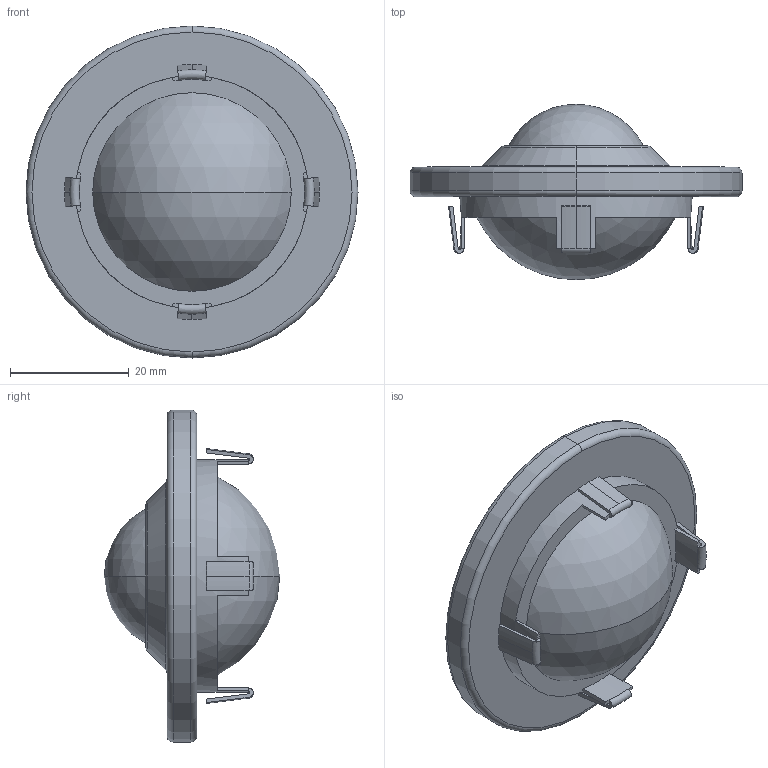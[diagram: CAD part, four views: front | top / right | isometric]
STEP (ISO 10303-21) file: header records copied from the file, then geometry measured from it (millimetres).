
FILE_DESCRIPTION (( 'STEP AP203' ), '1' );
FILE_NAME ('PV30UX.STEP', '2016-01-22T06:28:33', ( '' ), ( '' ), 'SwSTEP 2.0', 'SolidWorks 2013', '' );
FILE_SCHEMA (( 'CONFIG_CONTROL_DESIGN' ));
Length unit declared in the file: millimetre
Products named in the file (1): PV30UX
Bounding box: 56 x 29.6 x 56 mm (x, y, z)
Volume: 25777.7 mm3; surface area: 7386.8 mm2
Topology: 1 solids, 1 shells, 86 faces, 226 edges, 146 vertices
Faces by surface type: plane 36, cone 22, torus 16, cylinder 8, sphere 4
Entity records: 2779 total; most frequent: DIRECTION 524, CARTESIAN_POINT 459, ORIENTED_EDGE 452, EDGE_CURVE 226, AXIS2_PLACEMENT_3D 211, VERTEX_POINT 146, CIRCLE 124, VECTOR 102
